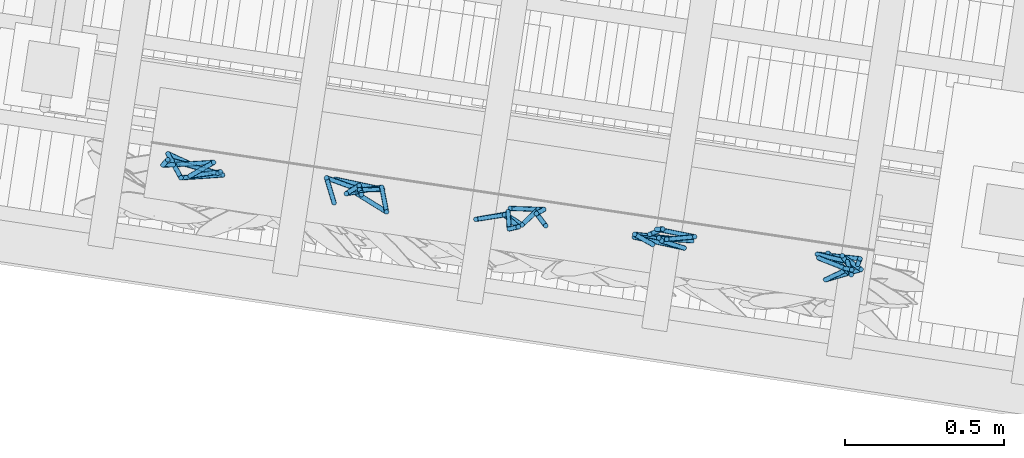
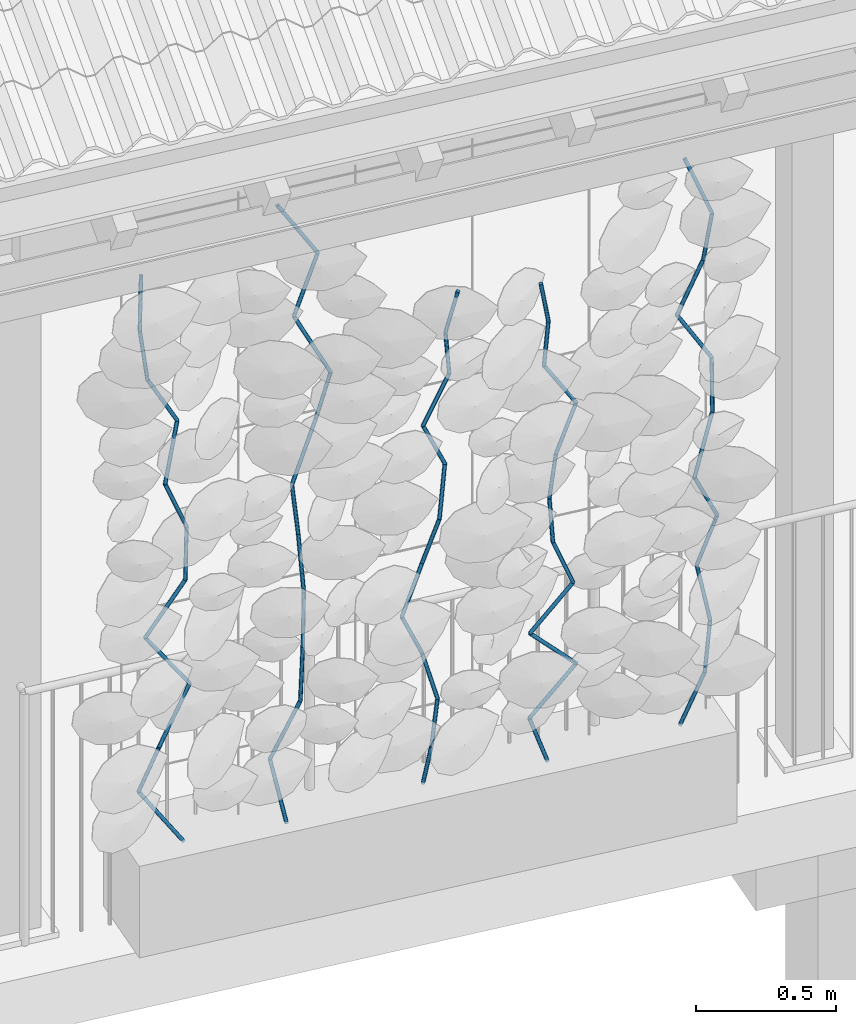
# One storey, part 106 of 131: 55 members, 1 element without a shape of its own.
"""IFC4 building model written with IfcOpenShell, lengths in metres."""

from ifc_helpers import new_model, si_unit, direction, frame, origin_with_axes, place, context, subcontext, project, spatial, circle, extrude, material, material_profile, profile_set, profile_usage, type_object, element, aggregate, save


model = new_model("IFC4")

# Units and contexts
model_context = context("Model", 3, precision=1e-05, world=origin_with_axes(), true_north=direction((0.0, 1.0)))
body_context = subcontext(model_context, "Body", "Model", "MODEL_VIEW")
ifc_project = project(units=[si_unit("VOLUMEUNIT", "CUBIC_METRE"), si_unit("LENGTHUNIT", "METRE"), si_unit("AREAUNIT", "SQUARE_METRE")], contexts=[model_context])

# Site, building, storey
site_placement = place(None, origin_with_axes())
site = spatial("IfcSite", under=ifc_project, at=site_placement, Name="Lares · Rua das Mercês · artigo 4771")
building_placement = place(site_placement, frame((15.0, 9.7, 15.8), z_axis=(0.0, 0.0, 1.0), x_axis=(0.989015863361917, -0.147809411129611, 0.0)))
building = spatial("IfcBuilding", under=site, at=building_placement, Name="Casa Sobreposta")
storey_placement = place(building_placement, origin_with_axes())
storey = spatial("IfcBuildingStorey", under=building, at=storey_placement, Name="00 · Habitação e estacionamento", Elevation=15.8)

# Assembly, members
assembly_placement = place(storey_placement, origin_with_axes())
assembly = element("IfcElementAssembly", 1, at=assembly_placement, inside=storey, Name="Fachada sul e pátio · estrutura e trepadeiras", ObjectType="LIVING_SHADE_TRELLIS", PredefinedType="USERDEFINED")
ifc_material = material(Name="Ramos de trepadeiras", Category="wood")
ifc_material_profile = material_profile(ifc_material, circle(Radius=0.0075))
ifc_profile_set = profile_set([ifc_material_profile], Name="D0.015")
ifc_profile_usage_1 = profile_usage(ifc_profile_set)
member_type = type_object("IfcMemberType", Name="D0.015 / vine_wood", PredefinedType="NOTDEFINED", material=ifc_profile_set)
member_1_placement = place(assembly_placement, frame((-5.48911948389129, -1.68313375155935, 0.35), z_axis=(-0.5585958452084, 0.161686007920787, 0.813528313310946), x_axis=(0.278037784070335, 0.960570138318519, 0.0)))
member_1 = element("IfcMember", 2, at=member_1_placement, type_object=member_type, material=ifc_profile_usage_1, Name="Trepadeiras · ramo", context=body_context, shape_type="SweptSolid", body=[
    extrude(circle(Radius=0.0075), origin_with_axes(), (0.0, 0.0, 1.0), 0.279247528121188),
])
ifc_profile_usage_2 = profile_usage(ifc_profile_set)
member_2_placement = place(assembly_placement, frame((-5.64510599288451, -1.63798333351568, 0.577175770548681), z_axis=(0.214287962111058, -0.283819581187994, 0.934626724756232), x_axis=(-0.798074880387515, -0.602558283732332, -1.82360061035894e-17)))
member_2 = element("IfcMember", 3, at=member_2_placement, type_object=member_type, material=ifc_profile_usage_2, Name="Trepadeiras · ramo", context=body_context, shape_type="SweptSolid", body=[
    extrude(circle(Radius=0.0075), origin_with_axes(), (0.0, 0.0, 1.0), 0.243065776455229),
])
ifc_profile_usage_3 = profile_usage(ifc_profile_set)
member_3_placement = place(assembly_placement, frame((-5.59301992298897, -1.70697016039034, 0.804351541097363), z_axis=(0.49060306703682, 0.107168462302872, 0.864767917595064), x_axis=(0.213409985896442, -0.976962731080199, 0.0)))
member_3 = element("IfcMember", 4, at=member_3_placement, type_object=member_type, material=ifc_profile_usage_3, Name="Trepadeiras · ramo", context=body_context, shape_type="SweptSolid", body=[
    extrude(circle(Radius=0.0075), origin_with_axes(), (0.0, 0.0, 1.0), 0.262701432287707),
])
ifc_profile_usage_4 = profile_usage(ifc_profile_set)
member_4_placement = place(assembly_placement, frame((-5.46413779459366, -1.67881685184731, 1.03152731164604), z_axis=(-0.580908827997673, 0.0761918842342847, 0.810394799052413), x_axis=(0.130045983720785, 0.991507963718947, 0.0)))
member_4 = element("IfcMember", 5, at=member_4_placement, type_object=member_type, material=ifc_profile_usage_4, Name="Trepadeiras · ramo", context=body_context, shape_type="SweptSolid", body=[
    extrude(circle(Radius=0.0075), origin_with_axes(), (0.0, 0.0, 1.0), 0.280327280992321),
])
ifc_profile_usage_5 = profile_usage(ifc_profile_set)
member_5_placement = place(assembly_placement, frame((-5.62698238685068, -1.65745818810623, 1.25870308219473), z_axis=(0.542876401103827, -0.0652245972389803, 0.837275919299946), x_axis=(-0.119288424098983, -0.992859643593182, 0.0)))
member_5 = element("IfcMember", 6, at=member_5_placement, type_object=member_type, material=ifc_profile_usage_5, Name="Trepadeiras · ramo", context=body_context, shape_type="SweptSolid", body=[
    extrude(circle(Radius=0.0075), origin_with_axes(), (0.0, 0.0, 1.0), 0.27132724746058),
])
ifc_profile_usage_6 = profile_usage(ifc_profile_set)
member_6_placement = place(assembly_placement, frame((-5.47968522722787, -1.6751553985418, 1.48587885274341), z_axis=(0.0303617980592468, 0.0225812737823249, 0.999283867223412), x_axis=(0.999538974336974, -0.000685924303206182, -0.0303540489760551)))
member_6 = element("IfcMember", 7, at=member_6_placement, type_object=member_type, material=ifc_profile_usage_6, Name="Trepadeiras · ramo", context=body_context, shape_type="SweptSolid", body=[
    extrude(circle(Radius=0.0075), origin_with_axes(), (0.0, 0.0, 1.0), 0.227338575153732),
])
ifc_profile_usage_7 = profile_usage(ifc_profile_set)
member_7_placement = place(assembly_placement, frame((-5.47278281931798, -1.67002180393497, 1.71305462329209), z_axis=(-0.377036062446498, -0.109503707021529, 0.919702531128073), x_axis=(-0.278907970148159, 0.960317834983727, 0.0)))
member_7 = element("IfcMember", 8, at=member_7_placement, type_object=member_type, material=ifc_profile_usage_7, Name="Trepadeiras · ramo", context=body_context, shape_type="SweptSolid", body=[
    extrude(circle(Radius=0.0075), origin_with_axes(), (0.0, 0.0, 1.0), 0.24701005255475),
])
ifc_profile_usage_8 = profile_usage(ifc_profile_set)
member_8_placement = place(assembly_placement, frame((-5.56591451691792, -1.6970703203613, 1.94023039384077), z_axis=(0.277419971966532, 0.219319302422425, 0.935380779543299), x_axis=(0.620172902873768, -0.784465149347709, 0.0)))
member_8 = element("IfcMember", 9, at=member_8_placement, type_object=member_type, material=ifc_profile_usage_8, Name="Trepadeiras · ramo", context=body_context, shape_type="SweptSolid", body=[
    extrude(circle(Radius=0.0075), origin_with_axes(), (0.0, 0.0, 1.0), 0.242869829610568),
])
ifc_profile_usage_9 = profile_usage(ifc_profile_set)
member_9_placement = place(assembly_placement, frame((-5.49853757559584, -1.64380427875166, 2.16740616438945), z_axis=(-0.479601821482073, -0.100828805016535, 0.871674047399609), x_axis=(-0.205736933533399, 0.97860733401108, 0.0)))
member_9 = element("IfcMember", 10, at=member_9_placement, type_object=member_type, material=ifc_profile_usage_9, Name="Trepadeiras · ramo", context=body_context, shape_type="SweptSolid", body=[
    extrude(circle(Radius=0.0075), origin_with_axes(), (0.0, 0.0, 1.0), 0.260620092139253),
])
ifc_profile_usage_10 = profile_usage(ifc_profile_set)
member_10_placement = place(assembly_placement, frame((-5.62353144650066, -1.67008229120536, 2.39458193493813), z_axis=(-0.138199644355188, -0.0231936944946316, 0.99013277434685), x_axis=(-0.165512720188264, 0.986207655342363, 0.0)))
member_10 = element("IfcMember", 11, at=member_10_placement, type_object=member_type, material=ifc_profile_usage_10, Name="Trepadeiras · ramo", context=body_context, shape_type="SweptSolid", body=[
    extrude(circle(Radius=0.0075), origin_with_axes(), (0.0, 0.0, 1.0), 0.229439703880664),
])
ifc_profile_usage_11 = profile_usage(ifc_profile_set)
member_11_placement = place(assembly_placement, frame((-5.65523993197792, -1.67540384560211, 2.62175770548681), z_axis=(0.0535549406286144, 0.0806436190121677, 0.99530320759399), x_axis=(0.833038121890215, -0.55321558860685, 0.0)))
member_11 = element("IfcMember", 12, at=member_11_placement, type_object=member_type, material=ifc_profile_usage_11, Name="Trepadeiras · ramo", context=body_context, shape_type="SweptSolid", body=[
    extrude(circle(Radius=0.0075), origin_with_axes(), (0.0, 0.0, 1.0), 0.228247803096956),
])
ifc_profile_usage_12 = profile_usage(ifc_profile_set)
member_12_placement = place(assembly_placement, frame((-5.10468814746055, -1.71366116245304, 0.35), z_axis=(-0.137802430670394, 0.29166054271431, 0.946543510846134), x_axis=(0.90416024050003, 0.427193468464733, 0.0)))
member_12 = element("IfcMember", 13, at=member_12_placement, type_object=member_type, material=ifc_profile_usage_12, Name="Trepadeiras · ramo", context=body_context, shape_type="SweptSolid", body=[
    extrude(circle(Radius=0.0075), origin_with_axes(), (0.0, 0.0, 1.0), 0.255140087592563),
])
ifc_profile_usage_13 = profile_usage(ifc_profile_set)
member_13_placement = place(assembly_placement, frame((-5.13984707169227, -1.63924686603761, 0.591501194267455), z_axis=(0.408423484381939, -0.0832690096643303, 0.908986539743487), x_axis=(-0.199769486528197, -0.9798429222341, 0.0)))
member_13 = element("IfcMember", 14, at=member_13_placement, type_object=member_type, material=ifc_profile_usage_13, Name="Trepadeiras · ramo", context=body_context, shape_type="SweptSolid", body=[
    extrude(circle(Radius=0.0075), origin_with_axes(), (0.0, 0.0, 1.0), 0.265681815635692),
])
ifc_profile_usage_14 = profile_usage(ifc_profile_set)
member_14_placement = place(assembly_placement, frame((-5.03133637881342, -1.66136992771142, 0.83300238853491), z_axis=(0.0253217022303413, -0.0345834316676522, 0.999080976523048), x_axis=(0.999679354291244, 0.000875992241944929, -0.0253065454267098)))
member_14 = element("IfcMember", 15, at=member_14_placement, type_object=member_type, material=ifc_profile_usage_14, Name="Trepadeiras · ramo", context=body_context, shape_type="SweptSolid", body=[
    extrude(circle(Radius=0.0075), origin_with_axes(), (0.0, 0.0, 1.0), 0.241723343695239),
])
ifc_profile_usage_15 = profile_usage(ifc_profile_set)
member_15_placement = place(assembly_placement, frame((-5.02521553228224, -1.66972955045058, 1.07450358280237), z_axis=(0.00711907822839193, -0.0231558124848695, 0.999706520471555), x_axis=(0.999974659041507, 0.000164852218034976, -0.00711716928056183)))
member_15 = element("IfcMember", 16, at=member_15_placement, type_object=member_type, material=ifc_profile_usage_15, Name="Trepadeiras · ramo", context=body_context, shape_type="SweptSolid", body=[
    extrude(circle(Radius=0.0075), origin_with_axes(), (0.0, 0.0, 1.0), 0.241572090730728),
])
ifc_profile_usage_16 = profile_usage(ifc_profile_set)
member_16_placement = place(assembly_placement, frame((-5.02349576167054, -1.67532334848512, 1.31600477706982), z_axis=(-0.045968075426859, 0.11193816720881, 0.992651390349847), x_axis=(0.925038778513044, 0.379872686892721, 0.0)))
member_16 = element("IfcMember", 17, at=member_16_placement, type_object=member_type, material=ifc_profile_usage_16, Name="Trepadeiras · ramo", context=body_context, shape_type="SweptSolid", body=[
    extrude(circle(Radius=0.0075), origin_with_axes(), (0.0, 0.0, 1.0), 0.243289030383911),
])
ifc_profile_usage_17 = profile_usage(ifc_profile_set)
member_17_placement = place(assembly_placement, frame((-5.03467929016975, -1.64809002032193, 1.55750597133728), z_axis=(-0.147228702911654, -0.12659142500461, 0.980968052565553), x_axis=(-0.651964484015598, 0.758249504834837, 0.0)))
member_17 = element("IfcMember", 18, at=member_17_placement, type_object=member_type, material=ifc_profile_usage_17, Name="Trepadeiras · ramo", context=body_context, shape_type="SweptSolid", body=[
    extrude(circle(Radius=0.0075), origin_with_axes(), (0.0, 0.0, 1.0), 0.246186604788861),
])
ifc_profile_usage_18 = profile_usage(ifc_profile_set)
member_18_placement = place(assembly_placement, frame((-5.07092502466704, -1.6792551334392, 1.79900716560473), z_axis=(0.40264919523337, 0.135561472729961, 0.905260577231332), x_axis=(0.319075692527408, -0.947729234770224, 0.0)))
member_18 = element("IfcMember", 19, at=member_18_placement, type_object=member_type, material=ifc_profile_usage_18, Name="Trepadeiras · ramo", context=body_context, shape_type="SweptSolid", body=[
    extrude(circle(Radius=0.0075), origin_with_axes(), (0.0, 0.0, 1.0), 0.266775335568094),
])
ifc_profile_usage_19 = profile_usage(ifc_profile_set)
member_19_placement = place(assembly_placement, frame((-4.96350815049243, -1.64309067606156, 2.04050835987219), z_axis=(0.103831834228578, -0.293087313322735, 0.950430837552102), x_axis=(-0.942596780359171, -0.33393309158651, 1.06049763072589e-17)))
member_19 = element("IfcMember", 20, at=member_19_placement, type_object=member_type, material=ifc_profile_usage_19, Name="Trepadeiras · ramo", context=body_context, shape_type="SweptSolid", body=[
    extrude(circle(Radius=0.0075), origin_with_axes(), (0.0, 0.0, 1.0), 0.254096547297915),
])
ifc_profile_usage_20 = profile_usage(ifc_profile_set)
member_20_placement = place(assembly_placement, frame((-4.93712483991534, -1.71756315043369, 2.28200955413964), z_axis=(-0.44006639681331, 0.189245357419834, 0.877797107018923), x_axis=(0.395057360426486, 0.918656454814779, 0.0)))
member_20 = element("IfcMember", 21, at=member_20_placement, type_object=member_type, material=ifc_profile_usage_20, Name="Trepadeiras · ramo", context=body_context, shape_type="SweptSolid", body=[
    extrude(circle(Radius=0.0075), origin_with_axes(), (0.0, 0.0, 1.0), 0.275121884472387),
])
ifc_profile_usage_21 = profile_usage(ifc_profile_set)
member_21_placement = place(assembly_placement, frame((-5.05819673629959, -1.6654976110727, 2.5235107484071), z_axis=(0.376883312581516, 0.0630175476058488, 0.924114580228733), x_axis=(0.164917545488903, -0.986307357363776, 0.0)))
member_21 = element("IfcMember", 22, at=member_21_placement, type_object=member_type, material=ifc_profile_usage_21, Name="Trepadeiras · ramo", context=body_context, shape_type="SweptSolid", body=[
    extrude(circle(Radius=0.0075), origin_with_axes(), (0.0, 0.0, 1.0), 0.261332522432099),
])
ifc_profile_usage_22 = profile_usage(ifc_profile_set)
member_22_placement = place(assembly_placement, frame((-4.9597048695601, -1.64902907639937, 2.76501194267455), z_axis=(-0.533411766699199, 0.0331714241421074, 0.845205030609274), x_axis=(0.0620673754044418, 0.998071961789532, 0.0)))
member_22 = element("IfcMember", 23, at=member_22_placement, type_object=member_type, material=ifc_profile_usage_22, Name="Trepadeiras · ramo", context=body_context, shape_type="SweptSolid", body=[
    extrude(circle(Radius=0.0075), origin_with_axes(), (0.0, 0.0, 1.0), 0.285730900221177),
])
ifc_profile_usage_23 = profile_usage(ifc_profile_set)
member_23_placement = place(assembly_placement, frame((-4.55888643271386, -1.65994677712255, 0.35), z_axis=(0.0582059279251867, -0.2646234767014, 0.962593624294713), x_axis=(-0.976653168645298, -0.214822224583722, 0.0)))
member_23 = element("IfcMember", 24, at=member_23_placement, type_object=member_type, material=ifc_profile_usage_23, Name="Trepadeiras · ramo", context=body_context, shape_type="SweptSolid", body=[
    extrude(circle(Radius=0.0075), origin_with_axes(), (0.0, 0.0, 1.0), 0.201881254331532),
])
ifc_profile_usage_24 = profile_usage(ifc_profile_set)
member_24_placement = place(assembly_placement, frame((-4.5471357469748, -1.7133692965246, 0.544329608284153), z_axis=(0.139714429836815, 0.0541381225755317, 0.988710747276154), x_axis=(0.361313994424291, -0.932444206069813, -5.7233605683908e-18)))
member_24 = element("IfcMember", 25, at=member_24_placement, type_object=member_type, material=ifc_profile_usage_24, Name="Trepadeiras · ramo", context=body_context, shape_type="SweptSolid", body=[
    extrude(circle(Radius=0.0075), origin_with_axes(), (0.0, 0.0, 1.0), 0.19654849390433),
])
ifc_profile_usage_25 = profile_usage(ifc_profile_set)
member_25_placement = place(assembly_placement, frame((-4.51967508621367, -1.70272853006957, 0.738659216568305), z_axis=(-0.24083116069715, 0.152433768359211, 0.958521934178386), x_axis=(0.534820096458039, 0.844965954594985, 0.0)))
member_25 = element("IfcMember", 26, at=member_25_placement, type_object=member_type, material=ifc_profile_usage_25, Name="Trepadeiras · ramo", context=body_context, shape_type="SweptSolid", body=[
    extrude(circle(Radius=0.0075), origin_with_axes(), (0.0, 0.0, 1.0), 0.202738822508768),
])
ifc_profile_usage_26 = profile_usage(ifc_profile_set)
member_26_placement = place(assembly_placement, frame((-4.56850091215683, -1.67182428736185, 0.932988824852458), z_axis=(-0.406142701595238, -0.127109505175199, 0.904926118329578), x_axis=(-0.298681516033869, 0.954352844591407, 0.0)))
member_26 = element("IfcMember", 27, at=member_26_placement, type_object=member_type, material=ifc_profile_usage_26, Name="Trepadeiras · ramo", context=body_context, shape_type="SweptSolid", body=[
    extrude(circle(Radius=0.0075), origin_with_axes(), (0.0, 0.0, 1.0), 0.214746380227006),
])
ifc_profile_usage_27 = profile_usage(ifc_profile_set)
member_27_placement = place(assembly_placement, frame((-4.65571858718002, -1.69912059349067, 1.12731843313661), z_axis=(0.415919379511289, 0.137488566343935, 0.898948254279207), x_axis=(0.313861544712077, -0.949468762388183, 1.42395565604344e-17)))
member_27 = element("IfcMember", 28, at=member_27_placement, type_object=member_type, material=ifc_profile_usage_27, Name="Trepadeiras · ramo", context=body_context, shape_type="SweptSolid", body=[
    extrude(circle(Radius=0.0075), origin_with_axes(), (0.0, 0.0, 1.0), 0.21617440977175),
])
ifc_profile_usage_28 = profile_usage(ifc_profile_set)
member_28_placement = place(assembly_placement, frame((-4.56580746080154, -1.66939908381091, 1.32164804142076), z_axis=(0.277708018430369, -0.125468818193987, 0.952436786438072), x_axis=(-0.411729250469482, -0.911306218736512, 0.0)))
member_28 = element("IfcMember", 29, at=member_28_placement, type_object=member_type, material=ifc_profile_usage_28, Name="Trepadeiras · ramo", context=body_context, shape_type="SweptSolid", body=[
    extrude(circle(Radius=0.0075), origin_with_axes(), (0.0, 0.0, 1.0), 0.204034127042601),
])
ifc_profile_usage_29 = profile_usage(ifc_profile_set)
member_29_placement = place(assembly_placement, frame((-4.50914554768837, -1.69499900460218, 1.51597764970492), z_axis=(0.207151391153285, 0.27088338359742, 0.940058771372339), x_axis=(0.794350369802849, -0.607459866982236, 0.0)))
member_29 = element("IfcMember", 30, at=member_29_placement, type_object=member_type, material=ifc_profile_usage_29, Name="Trepadeiras · ramo", context=body_context, shape_type="SweptSolid", body=[
    extrude(circle(Radius=0.0075), origin_with_axes(), (0.0, 0.0, 1.0), 0.206720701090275),
])
ifc_profile_usage_30 = profile_usage(ifc_profile_set)
member_30_placement = place(assembly_placement, frame((-4.46632306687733, -1.63900180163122, 1.71030725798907), z_axis=(-0.411905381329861, -0.0476821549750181, 0.90997822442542), x_axis=(-0.11499206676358, 0.993366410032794, 0.0)))
member_30 = element("IfcMember", 31, at=member_30_placement, type_object=member_type, material=ifc_profile_usage_30, Name="Trepadeiras · ramo", context=body_context, shape_type="SweptSolid", body=[
    extrude(circle(Radius=0.0075), origin_with_axes(), (0.0, 0.0, 1.0), 0.213554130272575),
])
ifc_profile_usage_31 = profile_usage(ifc_profile_set)
member_31_placement = place(assembly_placement, frame((-4.55428716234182, -1.64918452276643, 1.90463686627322), z_axis=(0.477641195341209, 0.0557818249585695, 0.876782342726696), x_axis=(0.115997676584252, -0.993249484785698, 0.0)))
member_31 = element("IfcMember", 32, at=member_31_placement, type_object=member_type, material=ifc_profile_usage_31, Name="Trepadeiras · ramo", context=body_context, shape_type="SweptSolid", body=[
    extrude(circle(Radius=0.0075), origin_with_axes(), (0.0, 0.0, 1.0), 0.221639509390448),
])
ifc_profile_usage_32 = profile_usage(ifc_profile_set)
member_32_placement = place(assembly_placement, frame((-4.44842300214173, -1.63682106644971, 2.09896647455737), z_axis=(-0.107089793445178, -0.0814407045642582, 0.990908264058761), x_axis=(-0.605330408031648, 0.795974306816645, 0.0)))
member_32 = element("IfcMember", 33, at=member_32_placement, type_object=member_type, material=ifc_profile_usage_32, Name="Trepadeiras · ramo", context=body_context, shape_type="SweptSolid", body=[
    extrude(circle(Radius=0.0075), origin_with_axes(), (0.0, 0.0, 1.0), 0.196112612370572),
])
ifc_profile_usage_33 = profile_usage(ifc_profile_set)
member_33_placement = place(assembly_placement, frame((-4.46942466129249, -1.65279261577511, 2.29329608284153), z_axis=(0.172625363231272, -0.169503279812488, 0.970293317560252), x_axis=(-0.70062493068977, -0.713529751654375, 0.0)))
member_33 = element("IfcMember", 34, at=member_33_placement, type_object=member_type, material=ifc_profile_usage_33, Name="Trepadeiras · ramo", context=body_context, shape_type="SweptSolid", body=[
    extrude(circle(Radius=0.0075), origin_with_axes(), (0.0, 0.0, 1.0), 0.200279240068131),
])
ifc_profile_usage_34 = profile_usage(ifc_profile_set)
member_34_placement = place(assembly_placement, frame((-4.09287553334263, -1.6949556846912, 0.35), z_axis=(-0.307187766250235, 0.116740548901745, 0.944461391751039), x_axis=(0.355242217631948, 0.934774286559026, 0.0)))
member_34 = element("IfcMember", 35, at=member_34_placement, type_object=member_type, material=ifc_profile_usage_34, Name="Trepadeiras · ramo", context=body_context, shape_type="SweptSolid", body=[
    extrude(circle(Radius=0.0075), origin_with_axes(), (0.0, 0.0, 1.0), 0.199476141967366),
])
ifc_profile_usage_35 = profile_usage(ifc_profile_set)
member_35_placement = place(assembly_placement, frame((-4.1541521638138, -1.67166873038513, 0.538397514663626), z_axis=(0.696809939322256, 0.0254508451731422, 0.716804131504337), x_axis=(0.0365004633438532, -0.999333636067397, 0.0)))
member_35 = element("IfcMember", 36, at=member_35_placement, type_object=member_type, material=ifc_profile_usage_35, Name="Trepadeiras · ramo", context=body_context, shape_type="SweptSolid", body=[
    extrude(circle(Radius=0.0075), origin_with_axes(), (0.0, 0.0, 1.0), 0.262829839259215),
])
ifc_profile_usage_36 = profile_usage(ifc_profile_set)
member_36_placement = place(assembly_placement, frame((-3.97100971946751, -1.66497948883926, 0.726795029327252), z_axis=(-0.698068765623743, -0.0595200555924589, 0.713552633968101), x_axis=(-0.0849556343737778, 0.99638473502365, 0.0)))
member_36 = element("IfcMember", 37, at=member_36_placement, type_object=member_type, material=ifc_profile_usage_36, Name="Trepadeiras · ramo", context=body_context, shape_type="SweptSolid", body=[
    extrude(circle(Radius=0.0075), origin_with_axes(), (0.0, 0.0, 1.0), 0.264027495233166),
])
ifc_profile_usage_37 = profile_usage(ifc_profile_set)
member_37_placement = place(assembly_placement, frame((-4.15531906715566, -1.68069442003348, 0.915192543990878), z_axis=(0.651819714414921, -0.0434715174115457, 0.757126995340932), x_axis=(-0.0665447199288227, -0.997783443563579, 0.0)))
member_37 = element("IfcMember", 38, at=member_37_placement, type_object=member_type, material=ifc_profile_usage_37, Name="Trepadeiras · ramo", context=body_context, shape_type="SweptSolid", body=[
    extrude(circle(Radius=0.0075), origin_with_axes(), (0.0, 0.0, 1.0), 0.248832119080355),
])
ifc_profile_usage_38 = profile_usage(ifc_profile_set)
member_38_placement = place(assembly_placement, frame((-3.99312538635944, -1.69151152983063, 1.1035900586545), z_axis=(-0.362175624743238, 0.0579118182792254, 0.930309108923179), x_axis=(0.157894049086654, 0.987456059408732, 8.80006917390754e-18)))
member_38 = element("IfcMember", 39, at=member_38_placement, type_object=member_type, material=ifc_profile_usage_38, Name="Trepadeiras · ramo", context=body_context, shape_type="SweptSolid", body=[
    extrude(circle(Radius=0.0075), origin_with_axes(), (0.0, 0.0, 1.0), 0.202510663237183),
])
ifc_profile_usage_39 = profile_usage(ifc_profile_set)
member_39_placement = place(assembly_placement, frame((-4.06646981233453, -1.67978376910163, 1.29198757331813), z_axis=(-0.0557975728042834, 0.042595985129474, 0.997533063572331), x_axis=(0.606795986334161, 0.794857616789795, 0.0)))
member_39 = element("IfcMember", 40, at=member_39_placement, type_object=member_type, material=ifc_profile_usage_39, Name="Trepadeiras · ramo", context=body_context, shape_type="SweptSolid", body=[
    extrude(circle(Radius=0.0075), origin_with_axes(), (0.0, 0.0, 1.0), 0.188863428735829),
])
ifc_profile_usage_40 = profile_usage(ifc_profile_set)
member_40_placement = place(assembly_placement, frame((-4.07700793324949, -1.6717389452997, 1.48038508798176), z_axis=(0.132079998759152, -0.00406458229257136, 0.991230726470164), x_axis=(-0.0307590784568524, -0.999526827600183, 0.0)))
member_40 = element("IfcMember", 41, at=member_40_placement, type_object=member_type, material=ifc_profile_usage_40, Name="Trepadeiras · ramo", context=body_context, shape_type="SweptSolid", body=[
    extrude(circle(Radius=0.0075), origin_with_axes(), (0.0, 0.0, 1.0), 0.190064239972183),
])
ifc_profile_usage_41 = profile_usage(ifc_profile_set)
member_41_placement = place(assembly_placement, frame((-4.0519042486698, -1.67251147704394, 1.66878260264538), z_axis=(0.413891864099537, 0.100720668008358, 0.904736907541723), x_axis=(0.236449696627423, -0.9716437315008, 0.0)))
member_41 = element("IfcMember", 42, at=member_41_placement, type_object=member_type, material=ifc_profile_usage_41, Name="Trepadeiras · ramo", context=body_context, shape_type="SweptSolid", body=[
    extrude(circle(Radius=0.0075), origin_with_axes(), (0.0, 0.0, 1.0), 0.208234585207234),
])
ifc_profile_usage_42 = profile_usage(ifc_profile_set)
member_42_placement = place(assembly_placement, frame((-3.96571764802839, -1.65153795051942, 1.85718011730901), z_axis=(-0.541985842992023, 0.0270437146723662, 0.839952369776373), x_axis=(0.0498354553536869, 0.998757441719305, 0.0)))
member_42 = element("IfcMember", 43, at=member_42_placement, type_object=member_type, material=ifc_profile_usage_42, Name="Trepadeiras · ramo", context=body_context, shape_type="SweptSolid", body=[
    extrude(circle(Radius=0.0075), origin_with_axes(), (0.0, 0.0, 1.0), 0.224295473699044),
])
ifc_profile_usage_43 = profile_usage(ifc_profile_set)
member_43_placement = place(assembly_placement, frame((-4.08728261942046, -1.6454721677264, 2.04557763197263), z_axis=(0.0964738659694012, 0.0163248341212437, 0.995201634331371), x_axis=(0.166843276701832, -0.985983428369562, 0.0)))
member_43 = element("IfcMember", 44, at=member_43_placement, type_object=member_type, material=ifc_profile_usage_43, Name="Trepadeiras · ramo", context=body_context, shape_type="SweptSolid", body=[
    extrude(circle(Radius=0.0075), origin_with_axes(), (0.0, 0.0, 1.0), 0.189305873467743),
])
ifc_profile_usage_44 = profile_usage(ifc_profile_set)
member_44_placement = place(assembly_placement, frame((-4.06901954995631, -1.64238178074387, 2.23397514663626), z_axis=(-0.197104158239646, -0.116474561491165, 0.973439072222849), x_axis=(-0.508742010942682, 0.860919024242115, 0.0)))
member_44 = element("IfcMember", 45, at=member_44_placement, type_object=member_type, material=ifc_profile_usage_44, Name="Trepadeiras · ramo", context=body_context, shape_type="SweptSolid", body=[
    extrude(circle(Radius=0.0075), origin_with_axes(), (0.0, 0.0, 1.0), 0.193538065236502),
])
ifc_profile_usage_45 = profile_usage(ifc_profile_set)
member_45_placement = place(assembly_placement, frame((-3.56977088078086, -1.65988401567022, 0.35), z_axis=(0.364069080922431, -0.0843859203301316, 0.927541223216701), x_axis=(-0.225799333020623, -0.974173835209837, 0.0)))
member_45 = element("IfcMember", 46, at=member_45_placement, type_object=member_type, material=ifc_profile_usage_45, Name="Trepadeiras · ramo", context=body_context, shape_type="SweptSolid", body=[
    extrude(circle(Radius=0.0075), origin_with_axes(), (0.0, 0.0, 1.0), 0.2409562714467),
])
ifc_profile_usage_46 = profile_usage(ifc_profile_set)
member_46_placement = place(assembly_placement, frame((-3.48204615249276, -1.68021733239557, 0.573496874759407), z_axis=(0.090375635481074, -0.00367253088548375, 0.995900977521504), x_axis=(-0.0406027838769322, -0.999175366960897, 0.0)))
member_46 = element("IfcMember", 47, at=member_46_placement, type_object=member_type, material=ifc_profile_usage_46, Name="Trepadeiras · ramo", context=body_context, shape_type="SweptSolid", body=[
    extrude(circle(Radius=0.0075), origin_with_axes(), (0.0, 0.0, 1.0), 0.224416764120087),
])
ifc_profile_usage_47 = profile_usage(ifc_profile_set)
member_47_placement = place(assembly_placement, frame((-3.4617643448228, -1.68104150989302, 0.796993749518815), z_axis=(-0.15679958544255, 0.169233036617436, 0.973023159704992), x_axis=(0.733539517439, 0.6796468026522, 0.0)))
member_47 = element("IfcMember", 48, at=member_47_placement, type_object=member_type, material=ifc_profile_usage_47, Name="Trepadeiras · ramo", context=body_context, shape_type="SweptSolid", body=[
    extrude(circle(Radius=0.0075), origin_with_axes(), (0.0, 0.0, 1.0), 0.229693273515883),
])
ifc_profile_usage_48 = profile_usage(ifc_profile_set)
member_48_placement = place(assembly_placement, frame((-3.49778015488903, -1.64216981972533, 1.02049062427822), z_axis=(0.277630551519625, -0.143382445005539, 0.949927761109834), x_axis=(-0.458868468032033, -0.888504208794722, 0.0)))
member_48 = element("IfcMember", 49, at=member_48_placement, type_object=member_type, material=ifc_profile_usage_48, Name="Trepadeiras · ramo", context=body_context, shape_type="SweptSolid", body=[
    extrude(circle(Radius=0.0075), origin_with_axes(), (0.0, 0.0, 1.0), 0.235277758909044),
])
ifc_profile_usage_49 = profile_usage(ifc_profile_set)
member_49_placement = place(assembly_placement, frame((-3.43245986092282, -1.67590452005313, 1.24398749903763), z_axis=(-0.422018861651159, -0.193526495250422, 0.885690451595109), x_axis=(-0.416834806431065, 0.908982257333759, 0.0)))
member_49 = element("IfcMember", 50, at=member_49_placement, type_object=member_type, material=ifc_profile_usage_49, Name="Trepadeiras · ramo", context=body_context, shape_type="SweptSolid", body=[
    extrude(circle(Radius=0.0075), origin_with_axes(), (0.0, 0.0, 1.0), 0.252341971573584),
])
ifc_profile_usage_50 = profile_usage(ifc_profile_set)
member_50_placement = place(assembly_placement, frame((-3.53895293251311, -1.72473937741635, 1.46748437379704), z_axis=(0.374557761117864, 0.252728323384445, 0.89209577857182), x_axis=(0.559323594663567, -0.828949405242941, 0.0)))
member_50 = element("IfcMember", 51, at=member_50_placement, type_object=member_type, material=ifc_profile_usage_50, Name="Trepadeiras · ramo", context=body_context, shape_type="SweptSolid", body=[
    extrude(circle(Radius=0.0075), origin_with_axes(), (0.0, 0.0, 1.0), 0.250530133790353),
])
ifc_profile_usage_51 = profile_usage(ifc_profile_set)
member_51_placement = place(assembly_placement, frame((-3.44511492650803, -1.66142331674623, 1.69098124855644), z_axis=(0.0181520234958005, 0.0820861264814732, 0.99645991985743), x_axis=(0.976411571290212, -0.215917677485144, 0.0)))
member_51 = element("IfcMember", 52, at=member_51_placement, type_object=member_type, material=ifc_profile_usage_51, Name="Trepadeiras · ramo", context=body_context, shape_type="SweptSolid", body=[
    extrude(circle(Radius=0.0075), origin_with_axes(), (0.0, 0.0, 1.0), 0.224290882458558),
])
ifc_profile_usage_52 = profile_usage(ifc_profile_set)
member_52_placement = place(assembly_placement, frame((-3.44104359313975, -1.64301214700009, 1.91447812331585), z_axis=(-0.519270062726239, -0.0208159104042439, 0.854356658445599), x_axis=(-0.0400546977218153, 0.99919748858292, 0.0)))
member_52 = element("IfcMember", 53, at=member_52_placement, type_object=member_type, material=ifc_profile_usage_52, Name="Trepadeiras · ramo", context=body_context, shape_type="SweptSolid", body=[
    extrude(circle(Radius=0.0075), origin_with_axes(), (0.0, 0.0, 1.0), 0.261596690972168),
])
ifc_profile_usage_53 = profile_usage(ifc_profile_set)
member_53_placement = place(assembly_placement, frame((-3.57688292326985, -1.64845752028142, 2.13797499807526), z_axis=(0.401780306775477, -0.0378767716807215, 0.914952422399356), x_axis=(-0.0938562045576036, -0.995585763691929, 0.0)))
member_53 = element("IfcMember", 54, at=member_53_placement, type_object=member_type, material=ifc_profile_usage_53, Name="Trepadeiras · ramo", context=body_context, shape_type="SweptSolid", body=[
    extrude(circle(Radius=0.0075), origin_with_axes(), (0.0, 0.0, 1.0), 0.24427158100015),
])
ifc_profile_usage_54 = profile_usage(ifc_profile_set)
member_54_placement = place(assembly_placement, frame((-3.47873941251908, -1.65770973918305, 2.36147187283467), z_axis=(0.0800360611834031, -0.172430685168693, 0.98176468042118), x_axis=(-0.907051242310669, -0.421020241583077, 0.0)))
member_54 = element("IfcMember", 55, at=member_54_placement, type_object=member_type, material=ifc_profile_usage_54, Name="Trepadeiras · ramo", context=body_context, shape_type="SweptSolid", body=[
    extrude(circle(Radius=0.0075), origin_with_axes(), (0.0, 0.0, 1.0), 0.227648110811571),
])
ifc_profile_usage_55 = profile_usage(ifc_profile_set)
member_55_placement = place(assembly_placement, frame((-3.46051935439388, -1.69696325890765, 2.58496874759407), z_axis=(-0.339487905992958, 0.231447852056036, 0.911690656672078), x_axis=(0.563301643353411, 0.826251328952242, 0.0)))
member_55 = element("IfcMember", 56, at=member_55_placement, type_object=member_type, material=ifc_profile_usage_55, Name="Trepadeiras · ramo", context=body_context, shape_type="SweptSolid", body=[
    extrude(circle(Radius=0.0075), origin_with_axes(), (0.0, 0.0, 1.0), 0.245145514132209),
])
aggregate(assembly, [member_1, member_2, member_3, member_4, member_5, member_6, member_7, member_8, member_9, member_10, member_11, member_12, member_13, member_14, member_15, member_16, member_17, member_18, member_19, member_20, member_21, member_22, member_23, member_24, member_25, member_26, member_27, member_28, member_29, member_30, member_31, member_32, member_33, member_34, member_35, member_36, member_37, member_38, member_39, member_40, member_41, member_42, member_43, member_44, member_45, member_46, member_47, member_48, member_49, member_50, member_51, member_52, member_53, member_54, member_55])

save(model, "model.ifc")
